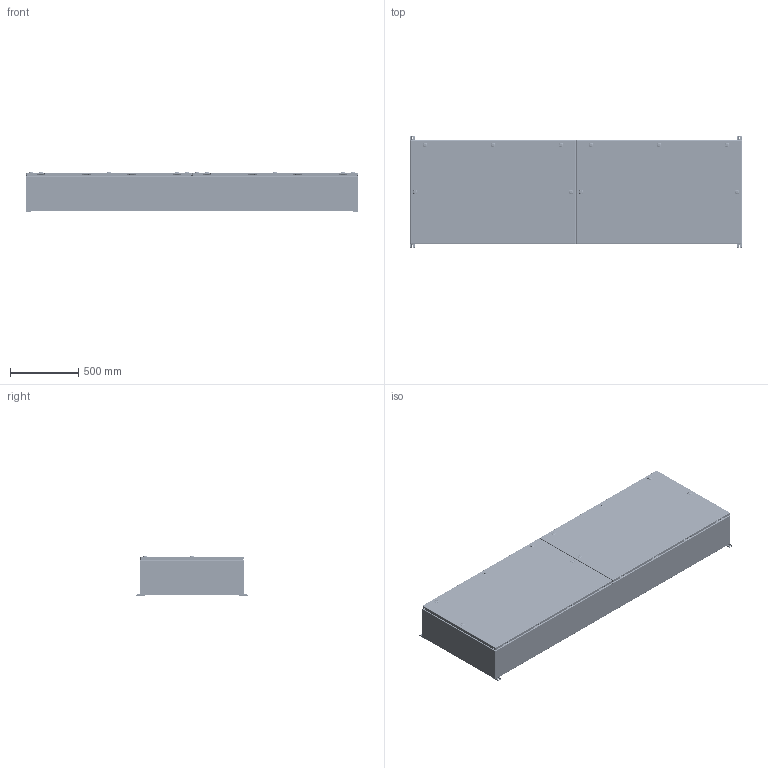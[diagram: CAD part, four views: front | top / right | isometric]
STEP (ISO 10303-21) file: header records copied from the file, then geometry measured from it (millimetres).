
FILE_DESCRIPTION(/* description */ ('1412BTSSCU 800A - 4 Wires x 96" Assembly'),/* implementation_level */ '2;1');
FILE_NAME(/* name */ 'C:\Vault_Workspace\Inventor_Dwg\BoxCad\Result\1412BTSSCU08804DT\e-mail\3D\1412BTSSCU08804DT.stp',/* time_stamp */ '2022-10-26T13:06:42-04:00',/* author */ ('BoxCad'),/* organization */ (''),/* preprocessor_version */ 'ST-DEVELOPER v18.1',/* originating_system */ 'Autodesk Inventor 2020',/* authorisation */ '');
FILE_SCHEMA (('AUTOMOTIVE_DESIGN { 1 0 10303 214 3 1 1 }'));
Products named in the file (67): 1412BTSSCU08804DT; 1412BTSSCU08804DTB; 1412BTSSCU08804DTB-P; 1412BTSSCU08804DTE-P; STK-Q-16020; iLogic_STK-G-00701; STK-Q-00260; STK-Q-07220-1; STK-Q-07220-A; STK-Q-07220-B; 1412BTSSCU08804DTC; 1412BTSSCU08804DTC-P; 1412BTSSCU08804DTF-P; 1412BTSSCU08804DTG; STK-Q-16095; STK-K-09850-1; STK-Q-33019; STK-Q-90111; STK-Q-40096; STK-Q-63412; STK-S-00100; STK-A-880SCQ4-SLSS6-1; STK-A-880SCQ4-SLSS6-2; STK-A-880SCQ4-SLSS6-3; STK-A-880SCQ4-SLSS6-4; STK-A-880SCQ4-SLSS6-5; STK-A-880SCQ4-SLSS6-6; STK-A-880SCQ4-SLSS6-7; STK-A-880SCQ4-SLSS6-8; STK-A-880SCQ4-SLSS6-9; STK-A-880SCQ4-SLSS6-10; STK-Q-70621; STK-Q-70631; STK-Q-78145; STK-Q-03200; STK-Q-78125; STK-Q-90390; STK-Q-78160; STK-Q-78141; 1412BTSSCU08804DTIP1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
Assembly tree (242 placements, depth 4):
  1412BTSSCU08804DT
    1412BTSSCU08804DTB
      1412BTSSCU08804DTB-P
      1412BTSSCU08804DTE-P
      STK-Q-16095  x2
      STK-Q-16020  x10
      iLogic_STK-G-00701
      STK-Q-00260  x10
      STK-Q-07220-1  x10
        STK-Q-07220-A
        STK-Q-07220-B
      STK-S-00100
    1412BTSSCU08804DTC
      1412BTSSCU08804DTC-P
      1412BTSSCU08804DTF-P
      1412BTSSCU08804DTG  x2
      STK-Q-16095  x2
      STK-K-09850-1  x8
        STK-Q-33019
        STK-Q-90111
        STK-Q-40096
        STK-Q-63412
      STK-S-00100
      STK-A-880SCQ4-SLSS6-1
        STK-Q-70621
        STK-Q-70631
        STK-Q-78145
        STK-Q-03200
        STK-Q-78125
        STK-Q-90390
        STK-Q-78160
        STK-Q-78141
      STK-A-880SCQ4-SLSS6-2
        STK-Q-70621
        STK-Q-70631
        STK-Q-78145
        STK-Q-03200
        STK-Q-78125
        STK-Q-90390
        STK-Q-78160
        STK-Q-78141
      STK-A-880SCQ4-SLSS6-3
        STK-Q-70621
        STK-Q-70631
        STK-Q-78145
        STK-Q-03200
        STK-Q-78125
        STK-Q-90390
        STK-Q-78160
        STK-Q-78141
      STK-A-880SCQ4-SLSS6-4
        STK-Q-70621
        STK-Q-70631
        STK-Q-78145
        STK-Q-03200
        STK-Q-78125
        STK-Q-90390
        STK-Q-78160
        STK-Q-78141
      STK-A-880SCQ4-SLSS6-5
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Bounding box: 2438.4 x 819.15 x 294.19 mm (x, y, z)
Volume: 17552955 mm3; surface area: 16085859.2 mm2
Topology: 362 solids, 362 shells, 50834 faces, 133122 edges, 83060 vertices
Faces by surface type: plane 19464, bspline 13732, cylinder 12368, torus 3566, sphere 1082, cone 622
Full cylindrical faces by diameter (mm): 0.75 x14, 0.762 x14, 1 x32, 1.1 x32, 3.2 x16, 4.5 x64, 4.85 x64, 4.917 x8, 4.95 x16, 5 x10, 5.1 x140, 5.105 x48, 5.9 x278, 6.65 x16, 6.655 x10, 6.8 x10, 6.85 x96, 7.366 x16, 7.8 x656, 8 x64, 8.25 x32, 8.6 x12, 9.5 x10, 9.6 x10, 9.7 x48, 9.906 x4, 10 x18, 10.312 x2, 11.5 x32, 12 x24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
Entity records: 235452 total; most frequent: CARTESIAN_POINT 90450, ORIENTED_EDGE 31942, DIRECTION 25879, EDGE_CURVE 15971, VERTEX_POINT 10222, AXIS2_PLACEMENT_3D 8871, LINE 8137, VECTOR 8137
